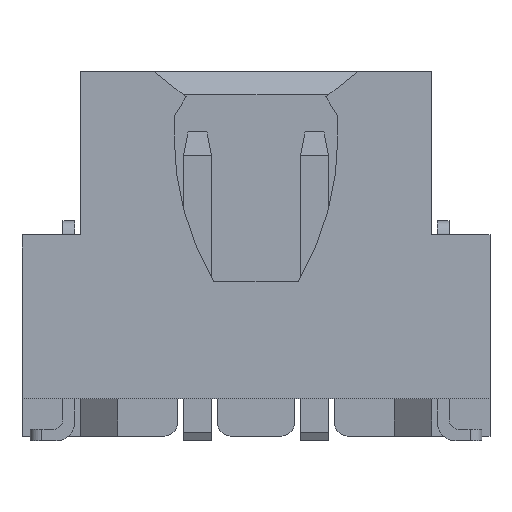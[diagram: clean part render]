
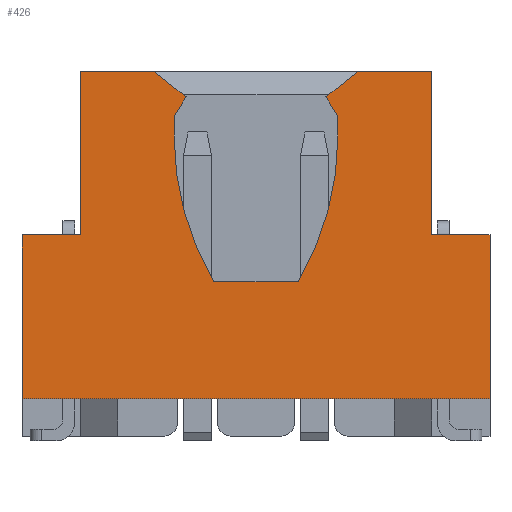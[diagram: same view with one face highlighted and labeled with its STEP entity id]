
A CAD part, front view. The second image highlights one B-rep face of the part: STEP entity #426.
In plain terms, the highlighted planar face has unit normal (0, -1, 0).
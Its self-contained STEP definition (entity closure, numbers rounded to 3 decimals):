
#426=ADVANCED_FACE('',(#1148),#1149,.T.);
#1148=FACE_OUTER_BOUND('',#2165,.T.);
#1149=PLANE('',#2166);
#2165=EDGE_LOOP('',(#3507,#3508,#3509,#3510,#3511,#3512,#3513,#3514,#3515,#3516,#3517,#3518,#3519,#3520,#3521,#3522,#3523,#3524));
#2166=AXIS2_PLACEMENT_3D('',#3525,#3526,#3527);
#3507=ORIENTED_EDGE('',*,*,#6585,.F.);
#3508=ORIENTED_EDGE('',*,*,#6586,.F.);
#3509=ORIENTED_EDGE('',*,*,#6587,.T.);
#3510=ORIENTED_EDGE('',*,*,#6588,.F.);
#3511=ORIENTED_EDGE('',*,*,#6589,.F.);
#3512=ORIENTED_EDGE('',*,*,#6590,.F.);
#3513=ORIENTED_EDGE('',*,*,#6591,.F.);
#3514=ORIENTED_EDGE('',*,*,#6592,.F.);
#3515=ORIENTED_EDGE('',*,*,#6593,.F.);
#3516=ORIENTED_EDGE('',*,*,#6594,.F.);
#3517=ORIENTED_EDGE('',*,*,#6595,.F.);
#3518=ORIENTED_EDGE('',*,*,#6596,.F.);
#3519=ORIENTED_EDGE('',*,*,#6597,.F.);
#3520=ORIENTED_EDGE('',*,*,#6598,.F.);
#3521=ORIENTED_EDGE('',*,*,#6375,.F.);
#3522=ORIENTED_EDGE('',*,*,#6599,.T.);
#3523=ORIENTED_EDGE('',*,*,#6600,.T.);
#3524=ORIENTED_EDGE('',*,*,#6550,.F.);
#3525=CARTESIAN_POINT('',(-3.75,-3.0,0.0));
#3526=DIRECTION('',(0.0,-1.0,0.0));
#3527=DIRECTION('',(1.0,0.0,0.0));
#6375=EDGE_CURVE('',#7701,#7702,#7703,.T.);
#6550=EDGE_CURVE('',#8009,#8011,#8012,.T.);
#6585=EDGE_CURVE('',#8073,#8009,#8074,.T.);
#6586=EDGE_CURVE('',#8075,#8073,#8076,.T.);
#6587=EDGE_CURVE('',#8075,#8077,#8078,.T.);
#6588=EDGE_CURVE('',#8079,#8077,#8080,.T.);
#6589=EDGE_CURVE('',#8081,#8079,#8082,.T.);
#6590=EDGE_CURVE('',#8083,#8081,#8084,.T.);
#6591=EDGE_CURVE('',#8085,#8083,#8086,.T.);
#6592=EDGE_CURVE('',#8087,#8085,#8088,.T.);
#6593=EDGE_CURVE('',#8089,#8087,#8090,.T.);
#6594=EDGE_CURVE('',#8091,#8089,#8092,.T.);
#6595=EDGE_CURVE('',#8093,#8091,#8094,.T.);
#6596=EDGE_CURVE('',#8095,#8093,#8096,.T.);
#6597=EDGE_CURVE('',#8097,#8095,#8098,.T.);
#6598=EDGE_CURVE('',#7702,#8097,#8099,.T.);
#6599=EDGE_CURVE('',#7701,#8100,#8101,.T.);
#6600=EDGE_CURVE('',#8100,#8011,#8102,.T.);
#7701=VERTEX_POINT('',#9653);
#7702=VERTEX_POINT('',#9654);
#7703=LINE('',#9655,#9656);
#8009=VERTEX_POINT('',#10112);
#8011=VERTEX_POINT('',#10115);
#8012=LINE('',#10116,#10117);
#8073=VERTEX_POINT('',#10209);
#8074=LINE('',#10210,#10211);
#8075=VERTEX_POINT('',#10212);
#8076=LINE('',#10213,#10214);
#8077=VERTEX_POINT('',#10215);
#8078=LINE('',#10216,#10217);
#8079=VERTEX_POINT('',#10218);
#8080=LINE('',#10219,#10220);
#8081=VERTEX_POINT('',#10221);
#8082=LINE('',#10222,#10223);
#8083=VERTEX_POINT('',#10224);
#8084=LINE('',#10225,#10226);
#8085=VERTEX_POINT('',#10227);
#8086=LINE('',#10228,#10229);
#8087=VERTEX_POINT('',#10230);
#8088=CIRCLE('',#10231,6.129);
#8089=VERTEX_POINT('',#10232);
#8090=LINE('',#10233,#10234);
#8091=VERTEX_POINT('',#10235);
#8092=CIRCLE('',#10236,6.129);
#8093=VERTEX_POINT('',#10237);
#8094=LINE('',#10238,#10239);
#8095=VERTEX_POINT('',#10240);
#8096=LINE('',#10241,#10242);
#8097=VERTEX_POINT('',#10243);
#8098=LINE('',#10244,#10245);
#8099=LINE('',#10246,#10247);
#8100=VERTEX_POINT('',#10248);
#8101=LINE('',#10249,#10250);
#8102=LINE('',#10251,#10252);
#9653=CARTESIAN_POINT('',(-3.75,-3.0,4.3));
#9654=CARTESIAN_POINT('',(-3.75,-3.0,7.8));
#9655=CARTESIAN_POINT('',(-3.75,-3.0,4.3));
#9656=VECTOR('',#12353,1.0);
#10112=CARTESIAN_POINT('',(5.0,-3.0,0.8));
#10115=CARTESIAN_POINT('',(-5.0,-3.0,0.8));
#10116=CARTESIAN_POINT('',(5.0,-3.0,0.8));
#10117=VECTOR('',#12517,1.0);
#10209=CARTESIAN_POINT('',(5.0,-3.0,4.3));
#10210=CARTESIAN_POINT('',(5.0,-3.0,4.3));
#10211=VECTOR('',#12549,1.0);
#10212=CARTESIAN_POINT('',(3.75,-3.0,4.3));
#10213=CARTESIAN_POINT('',(3.75,-3.0,4.3));
#10214=VECTOR('',#12550,1.0);
#10215=CARTESIAN_POINT('',(3.75,-3.0,7.8));
#10216=CARTESIAN_POINT('',(3.75,-3.0,4.3));
#10217=VECTOR('',#12551,1.0);
#10218=CARTESIAN_POINT('',(2.184,-3.0,7.8));
#10219=CARTESIAN_POINT('',(2.184,-3.0,7.8));
#10220=VECTOR('',#12552,1.0);
#10221=CARTESIAN_POINT('',(1.494,-3.0,7.25));
#10222=CARTESIAN_POINT('',(1.494,-3.0,7.25));
#10223=VECTOR('',#12553,1.0);
#10224=CARTESIAN_POINT('',(1.75,-3.0,6.831));
#10225=CARTESIAN_POINT('',(1.75,-3.0,6.831));
#10226=VECTOR('',#12554,1.0);
#10227=CARTESIAN_POINT('',(1.75,-3.0,6.414));
#10228=CARTESIAN_POINT('',(1.75,-3.0,6.414));
#10229=VECTOR('',#12555,1.0);
#10230=CARTESIAN_POINT('',(0.9,-3.0,3.3));
#10231=AXIS2_PLACEMENT_3D('',#12556,#12557,#12558);
#10232=CARTESIAN_POINT('',(-0.9,-3.0,3.3));
#10233=CARTESIAN_POINT('',(-0.9,-3.0,3.3));
#10234=VECTOR('',#12559,1.0);
#10235=CARTESIAN_POINT('',(-1.75,-3.0,6.414));
#10236=AXIS2_PLACEMENT_3D('',#12560,#12561,#12562);
#10237=CARTESIAN_POINT('',(-1.75,-3.0,6.831));
#10238=CARTESIAN_POINT('',(-1.75,-3.0,6.831));
#10239=VECTOR('',#12563,1.0);
#10240=CARTESIAN_POINT('',(-1.494,-3.0,7.25));
#10241=CARTESIAN_POINT('',(-1.494,-3.0,7.25));
#10242=VECTOR('',#12564,1.0);
#10243=CARTESIAN_POINT('',(-2.184,-3.0,7.8));
#10244=CARTESIAN_POINT('',(-2.184,-3.0,7.8));
#10245=VECTOR('',#12565,1.0);
#10246=CARTESIAN_POINT('',(-3.75,-3.0,7.8));
#10247=VECTOR('',#12566,1.0);
#10248=CARTESIAN_POINT('',(-5.0,-3.0,4.3));
#10249=CARTESIAN_POINT('',(-3.75,-3.0,4.3));
#10250=VECTOR('',#12567,1.0);
#10251=CARTESIAN_POINT('',(-5.0,-3.0,4.3));
#10252=VECTOR('',#12568,1.0);
#12353=DIRECTION('',(0.0,0.0,1.0));
#12517=DIRECTION('',(-1.0,0.0,0.0));
#12549=DIRECTION('',(0.0,0.0,-1.0));
#12550=DIRECTION('',(1.0,0.0,0.0));
#12551=DIRECTION('',(0.0,0.0,1.0));
#12552=DIRECTION('',(1.0,0.0,0.0));
#12553=DIRECTION('',(0.782,0.0,0.624));
#12554=DIRECTION('',(-0.521,0.0,0.854));
#12555=DIRECTION('',(0.0,0.0,1.0));
#12556=CARTESIAN_POINT('',(-4.379,-3.0,6.414));
#12557=DIRECTION('',(0.0,-1.0,0.0));
#12558=DIRECTION('',(0.861,0.0,-0.508));
#12559=DIRECTION('',(1.0,0.0,0.0));
#12560=CARTESIAN_POINT('',(4.379,-3.0,6.414));
#12561=DIRECTION('',(0.0,-1.0,-0.0));
#12562=DIRECTION('',(-1.0,0.0,0.));
#12563=DIRECTION('',(0.0,0.0,-1.0));
#12564=DIRECTION('',(-0.521,0.0,-0.854));
#12565=DIRECTION('',(0.782,0.0,-0.624));
#12566=DIRECTION('',(1.0,0.0,0.0));
#12567=DIRECTION('',(-1.0,0.0,0.0));
#12568=DIRECTION('',(0.0,0.0,-1.0));
